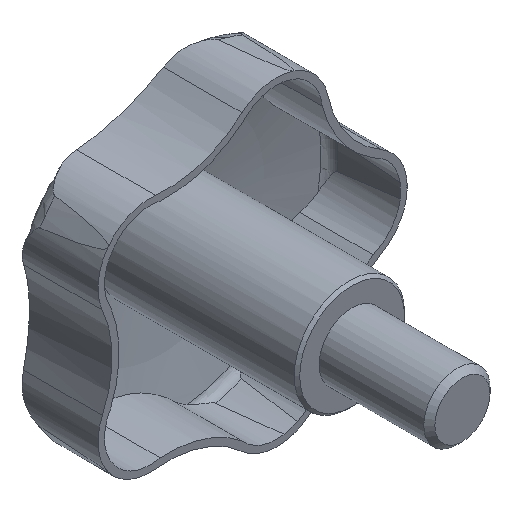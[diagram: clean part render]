
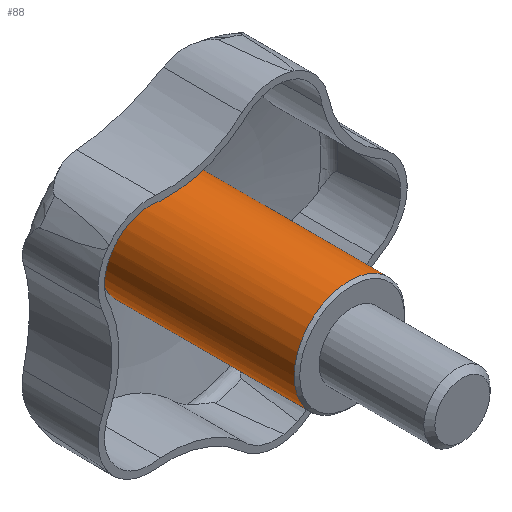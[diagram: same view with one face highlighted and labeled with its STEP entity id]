
A CAD part, isometric view. The second image highlights one B-rep face of the part: STEP entity #88.
In plain terms, the highlighted cylindrical face has radius 10 mm (diameter 20 mm), a full revolution.
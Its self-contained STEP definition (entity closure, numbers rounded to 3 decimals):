
#88 = ADVANCED_FACE( '', ( #162, #163 ), #164, .T. );
#162 = FACE_OUTER_BOUND( '', #288, .T. );
#163 = FACE_OUTER_BOUND( '', #289, .T. );
#164 = CYLINDRICAL_SURFACE( '', #290, 10. );
#288 = EDGE_LOOP( '', ( #501 ) );
#289 = EDGE_LOOP( '', ( #502 ) );
#290 = AXIS2_PLACEMENT_3D( '', #503, #504, #505 );
#501 = ORIENTED_EDGE( '', *, *, #924, .F. );
#502 = ORIENTED_EDGE( '', *, *, #908, .T. );
#503 = CARTESIAN_POINT( '', ( 0., -20., 0. ) );
#504 = DIRECTION( '', ( 0., 1., 0. ) );
#505 = DIRECTION( '', ( 0., 0., -1. ) );
#908 = EDGE_CURVE( '', #1094, #1094, #1095, .T. );
#924 = EDGE_CURVE( '', #1122, #1122, #1123, .T. );
#1094 = VERTEX_POINT( '', #1557 );
#1095 = CIRCLE( '', #1558, 10. );
#1122 = VERTEX_POINT( '', #1689 );
#1123 = CIRCLE( '', #1690, 10. );
#1557 = CARTESIAN_POINT( '', ( 0., 35.798, -10. ) );
#1558 = AXIS2_PLACEMENT_3D( '', #2315, #2316, #2317 );
#1689 = CARTESIAN_POINT( '', ( 0., 0.5, -10. ) );
#1690 = AXIS2_PLACEMENT_3D( '', #2328, #2329, #2330 );
#2315 = CARTESIAN_POINT( '', ( 0., 35.798, 0. ) );
#2316 = DIRECTION( '', ( 0., -1., 0. ) );
#2317 = DIRECTION( '', ( 0., 0., -1. ) );
#2328 = CARTESIAN_POINT( '', ( 0., 0.5, 0. ) );
#2329 = DIRECTION( '', ( 0., -1., 0. ) );
#2330 = DIRECTION( '', ( 0., 0., -1. ) );
